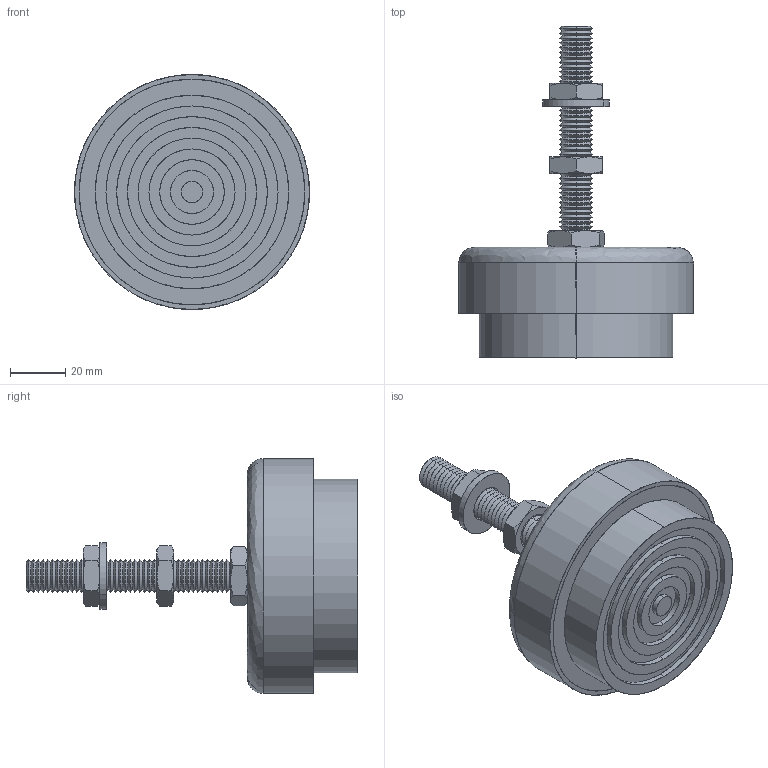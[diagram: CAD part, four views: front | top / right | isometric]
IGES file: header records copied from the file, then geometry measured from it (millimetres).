
Start section: SolidWorks IGES file using analytic representation for surfaces
Global section: file name: C:\Documents and Settings\IANO\Desktop\Temp File\Process pending\EXISTING\34940_v2\34940_v2_20170627_IGES\34940.W0085.igs; native system: SolidWorks 2009; preprocessor: SolidWorks 2009; author: IANO; date: 170626.132437; units: millimetre
Bounding box: 85 x 120 x 85 mm (x, y, z)
Surface area: 66100.5 mm2 (no closed solid volume)
Topology: 0 solids, 0 shells, 363 faces, 4480 edges, 4480 vertices
Faces by surface type: revolution 308, bspline 55
